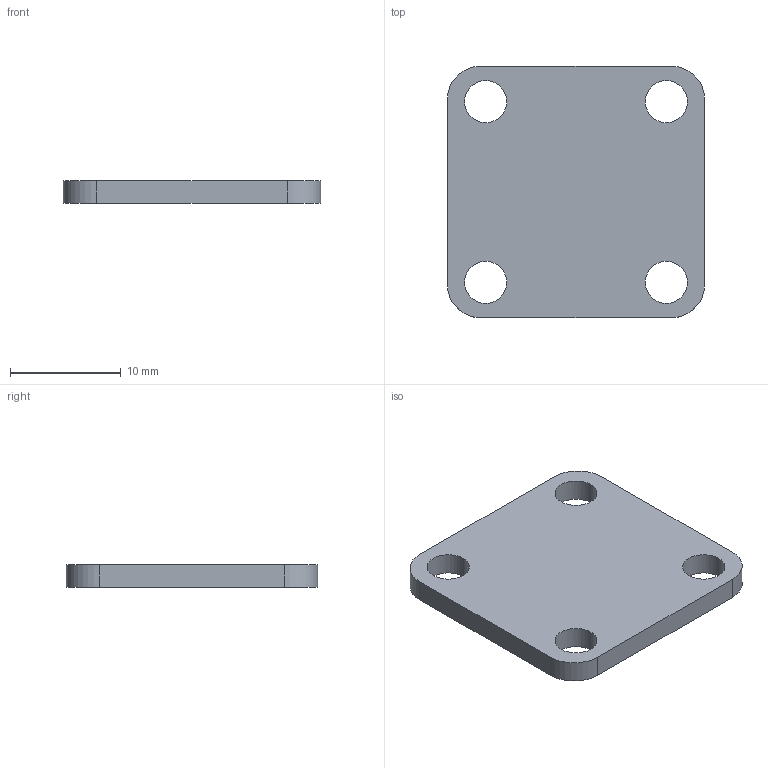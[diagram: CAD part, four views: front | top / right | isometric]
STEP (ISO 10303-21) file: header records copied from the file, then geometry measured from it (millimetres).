
FILE_DESCRIPTION(('Open CASCADE Model'),'2;1');
FILE_NAME('as5600-carrier-board.step','2026-11-14T14:31:59',('Author'),( 'Open CASCADE'),'Open CASCADE STEP processor 8.0','Open CASCADE 8.0' ,'Unknown');
FILE_SCHEMA(('AP242_MANAGED_MODEL_BASED_3D_ENGINEERING_MIM_LF {1 0 10303 442 1 1 4 }' ));
Length unit declared in the file: millimetre
Products named in the file (1): AS5600 Carrier Board
Bounding box: 23.2 x 22.7 x 2 mm (x, y, z)
Volume: 947.1 mm3; surface area: 1215.9 mm2
Topology: 1 solids, 1 shells, 18 faces, 48 edges, 32 vertices
Faces by surface type: cylinder 12, plane 6
Entity records: 1238 total; most frequent: CARTESIAN_POINT 219, DIRECTION 202, ORIENTED_EDGE 96, LINE 96, VECTOR 96, PCURVE 96, DEFINITIONAL_REPRESENTATION 96, EDGE_CURVE 48
